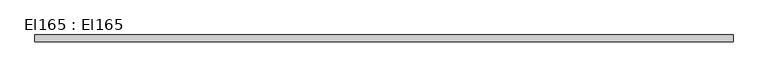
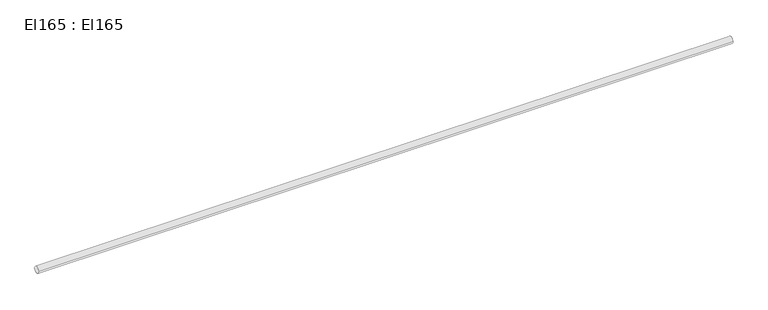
"""IFC4 building model written with IfcOpenShell, lengths in millimetres: cable carrier segment geometry, El165 : El165."""

from ifc_helpers import new_model, si_unit, point, frame, frame_2d, origin, place, context, project, spatial, circle_curve, trimmed, segment, composite_curve, outline, extrude, source, transform, mapped, element, save


def el165_el165_a96bc946(model_context):
    return source(origin(), model_context, "Body", "SweptSolid", [
        extrude(outline(composite_curve([segment(trimmed(circle_curve(frame_2d((12372.1, 2950.0)), 9.5), [point((12362.6, 2950.0))], [point((12381.6, 2950.0))], False, "CARTESIAN"), True, "CONTINUOUS"), segment(trimmed(circle_curve(frame_2d((12372.1, 2950.0)), 9.5), [point((12381.6, 2950.0))], [point((12362.6, 2950.0))], False, "CARTESIAN"), True, "CONTINUOUS")], self_intersect=False)), frame((17986.1, 0.0, 0.0), z_axis=(1.0, 0.0, 0.0), x_axis=(0.0, 1.0, 0.0)), (0.0, 0.0, 1.0), 1970.0),
    ])


if __name__ == "__main__":
    model = new_model("IFC4")
    model_context = context("Model", 3, world=origin())
    ifc_project = project(units=[si_unit("LENGTHUNIT", "METRE", prefix="MILLI")], contexts=[model_context])
    site = spatial("IfcSite", under=ifc_project)
    building = spatial("IfcBuilding", under=site)
    placement = place(None, origin())
    el165_el165_shape = el165_el165_a96bc946(model_context)
    element("IfcCableCarrierSegment", 1, ObjectType="El165 : El165", at=placement, inside=building, context=model_context, shape_type="MappedRepresentation", body=[
        mapped(el165_el165_shape, transform((0.0, 0.0, 0.0), x_axis=(1.0, 0.0, 0.0), y_axis=(0.0, 1.0, 0.0), z_axis=(0.0, 0.0, 1.0))),
    ])
    save(model, "model.ifc")
